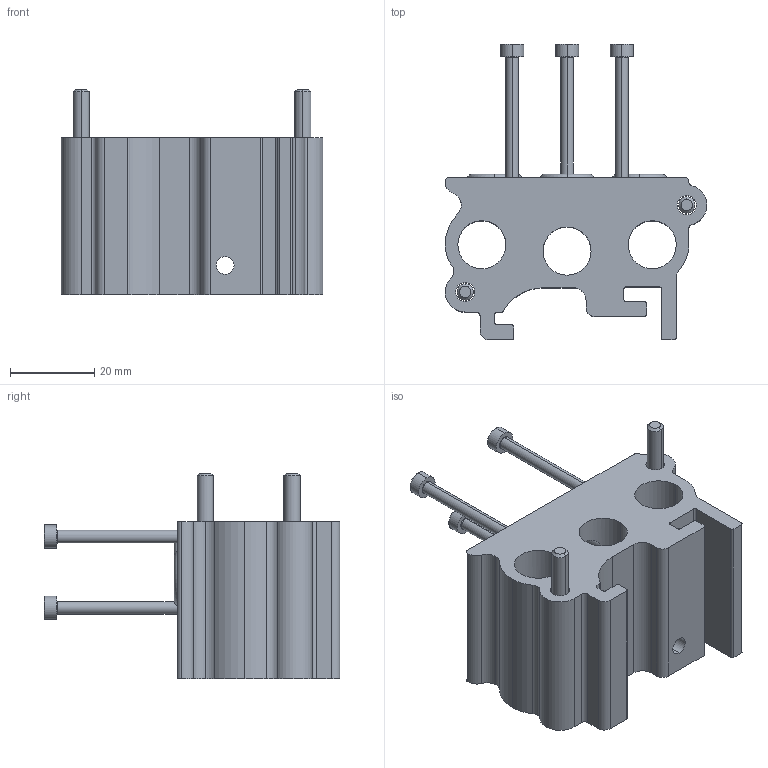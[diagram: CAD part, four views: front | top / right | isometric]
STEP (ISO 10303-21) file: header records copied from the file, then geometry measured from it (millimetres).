
FILE_DESCRIPTION (( 'STEP AP214' ), '1' );
FILE_NAME ('282467.STEP', '2015-06-15T11:41:31', ( '' ), ( '' ), 'SwSTEP 2.0', 'SolidWorks 2013', '' );
FILE_SCHEMA (( 'AUTOMOTIVE_DESIGN' ));
Length unit declared in the file: millimetre
Products named in the file (1): 282467
Bounding box: 62.05 x 70.1 x 48.8 mm (x, y, z)
Surface area: 20506.9 mm2 (no closed solid volume)
Topology: 0 solids, 9 shells, 204 faces, 532 edges, 327 vertices
Faces by surface type: cylinder 78, plane 62, cone 40, torus 24
Entity records: 8708 total; most frequent: CARTESIAN_POINT 1280, DIRECTION 1190, ORIENTED_EDGE 987, EDGE_CURVE 526, AXIS2_PLACEMENT_3D 469, VERTEX_POINT 327, CIRCLE 264, LINE 252
